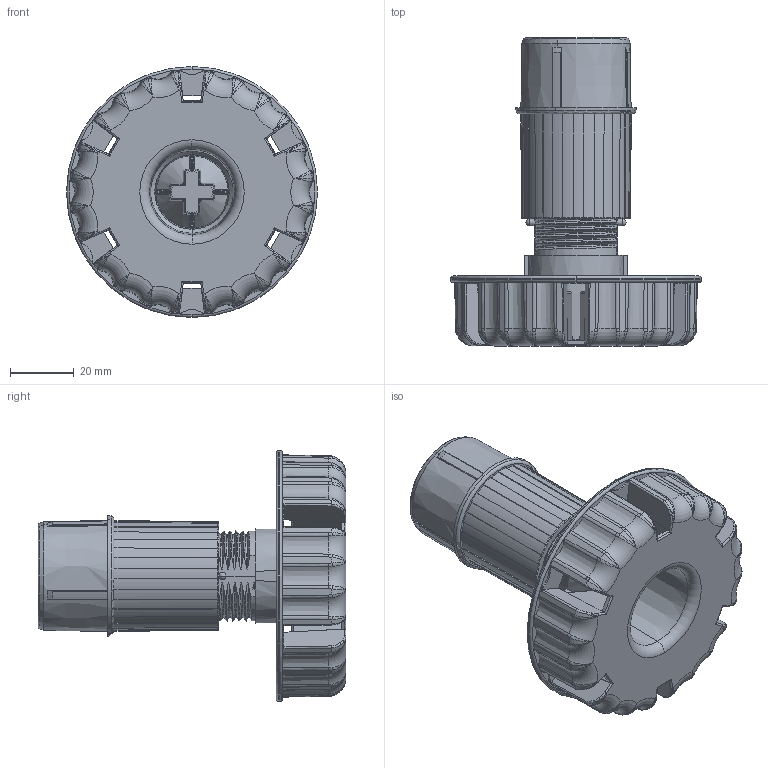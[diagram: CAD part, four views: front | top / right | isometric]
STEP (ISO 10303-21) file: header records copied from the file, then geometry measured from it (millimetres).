
FILE_DESCRIPTION((''),'2;1');
FILE_NAME('69_4102_ASM','2013-06-19T',('dsc'),(''),'PRO/ENGINEER BY PARAMETRIC TECHNOLOGY CORPORATION, 2012360','PRO/ENGINEER BY PARAMETRIC TECHNOLOGY CORPORATION, 2012360','');
FILE_SCHEMA(('CONFIG_CONTROL_DESIGN'));
Length unit declared in the file: millimetre
Products named in the file (3): 69_0015; 69_1011; 69_4102_ASM
Assembly tree (2 placements, depth 2):
  69_4102_ASM
    69_0015
    69_1011
Bounding box: 79 x 96.89 x 79 mm (x, y, z)
Volume: 46843.2 mm3; surface area: 54072.8 mm2
Topology: 2 solids, 2 shells, 1106 faces, 3008 edges, 1899 vertices
Faces by surface type: bspline 328, plane 210, cylinder 208, cone 167, torus 165, sphere 28
Entity records: 88225 total; most frequent: CARTESIAN_POINT 64115, ORIENTED_EDGE 6008, DIRECTION 3648, EDGE_CURVE 3004, VERTEX_POINT 1899, B_SPLINE_CURVE_WITH_KNOTS 1578, AXIS2_PLACEMENT_3D 1439, EDGE_LOOP 1117
